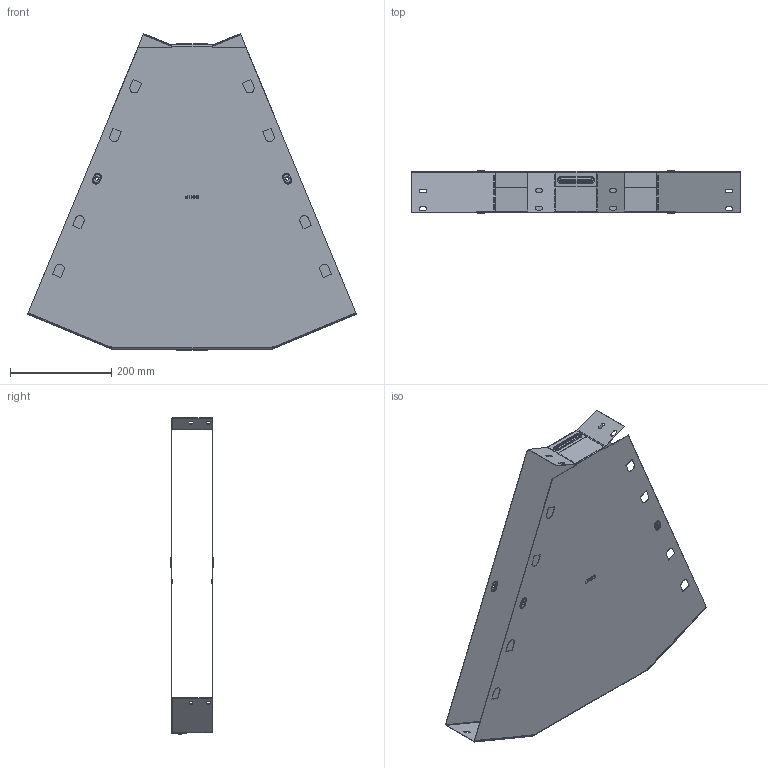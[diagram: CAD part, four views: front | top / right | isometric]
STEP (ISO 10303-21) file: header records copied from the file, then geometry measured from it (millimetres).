
FILE_DESCRIPTION (( 'STEP AP214' ), '1' );
FILE_NAME ('g4580600_捘.STEP', '2019-06-10T08:49:25', ( '砐錪賧瘔蠈錪 Windows' ), ( '' ), 'SwSTEP 2.0', 'SolidWorks 2018', '' );
FILE_SCHEMA (( 'AUTOMOTIVE_DESIGN' ));
Length unit declared in the file: millimetre
Products named in the file (1): g4580600_捘
Bounding box: 649.56 x 83.8 x 625.57 mm (x, y, z)
Volume: 478546.4 mm3; surface area: 1201989.3 mm2
Topology: 2 solids, 2 shells, 596 faces, 1656 edges, 1052 vertices
Faces by surface type: plane 338, cylinder 176, torus 64, bspline 18
Entity records: 19996 total; most frequent: CARTESIAN_POINT 4324, ORIENTED_EDGE 3312, DIRECTION 3226, EDGE_CURVE 1656, LINE 1172, VECTOR 1172, VERTEX_POINT 1052, AXIS2_PLACEMENT_3D 1027
